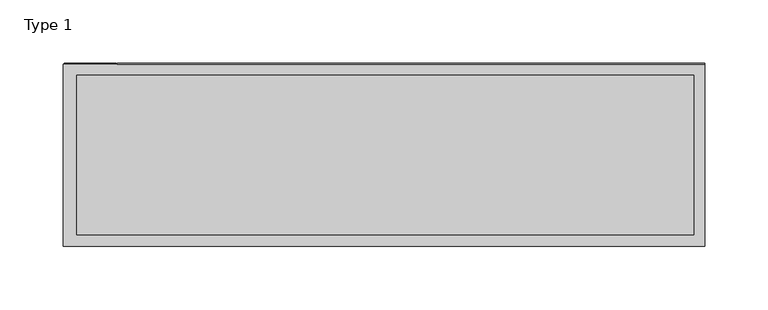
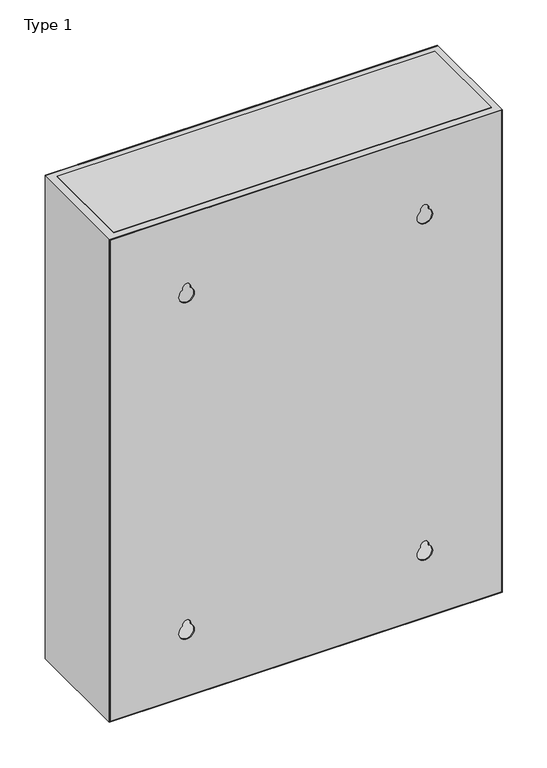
"""IFC4 building model written with IfcOpenShell, lengths in millimetres: proxy geometry, PDB-200 - 208V_OR_120V_Distribution_Panel_Wallmount_BIM_Model : Type 1."""

from ifc_helpers import new_model, si_unit, point, frame, frame_2d, origin, place, context, project, spatial, polyline, circle_curve, trimmed, segment, composite_curve, outline, extrude, source, transform, mapped, element, save


def type_1_70f3e7dd(model_context):
    return source(origin(), model_context, "Body", "SweptSolid", [
        extrude(outline(polyline([(1661.8105, -253.0524604), (1003.7201708, -253.0524604), (1003.7201708, 252.9513543), (1661.8105, 252.9513543), (1661.8105, -253.0524604)]), holes=[composite_curve([segment(trimmed(circle_curve(frame_2d((1562.5846885, 154.0)), 5.0), [point((1562.5846885, 149.0))], [point((1562.5846885, 159.0))], True, "CARTESIAN"), True, "CONTINUOUS"), segment(polyline([(1562.5846885, 159.0), (1560.4927236, 159.0)]), True, "CONTINUOUS"), segment(trimmed(circle_curve(frame_2d((1551.8324696, 154.0)), 10.0), [point((1560.4927236, 159.0))], [point((1560.4927236, 149.0))], True, "CARTESIAN"), True, "CONTINUOUS"), segment(polyline([(1560.4927236, 149.0), (1562.5846885, 149.0)]), True, "CONTINUOUS")], self_intersect=False), composite_curve([segment(trimmed(circle_curve(frame_2d((1562.5846885, -154.0)), 5.0), [point((1562.5846885, -159.0))], [point((1562.5846885, -149.0))], True, "CARTESIAN"), True, "CONTINUOUS"), segment(polyline([(1562.5846885, -149.0), (1560.4927236, -149.0)]), True, "CONTINUOUS"), segment(trimmed(circle_curve(frame_2d((1551.8324696, -154.0)), 10.0), [point((1560.4927236, -149.0))], [point((1560.4927236, -159.0))], True, "CARTESIAN"), True, "CONTINUOUS"), segment(polyline([(1560.4927236, -159.0), (1562.5846885, -159.0)]), True, "CONTINUOUS")], self_intersect=False), composite_curve([segment(trimmed(circle_curve(frame_2d((1102.5846885, 154.0)), 5.0), [point((1102.5846885, 149.0))], [point((1102.5846885, 159.0))], True, "CARTESIAN"), True, "CONTINUOUS"), segment(polyline([(1102.5846885, 159.0), (1100.4927236, 159.0)]), True, "CONTINUOUS"), segment(trimmed(circle_curve(frame_2d((1091.8324696, 154.0)), 10.0), [point((1100.4927236, 159.0))], [point((1100.4927236, 149.0))], True, "CARTESIAN"), True, "CONTINUOUS"), segment(polyline([(1100.4927236, 149.0), (1102.5846885, 149.0)]), True, "CONTINUOUS")], self_intersect=False), composite_curve([segment(trimmed(circle_curve(frame_2d((1102.5846885, -154.0)), 5.0), [point((1102.5846885, -159.0))], [point((1102.5846885, -149.0))], True, "CARTESIAN"), True, "CONTINUOUS"), segment(polyline([(1102.5846885, -149.0), (1100.4927236, -149.0)]), True, "CONTINUOUS"), segment(trimmed(circle_curve(frame_2d((1091.8324696, -154.0)), 10.0), [point((1100.4927236, -149.0))], [point((1100.4927236, -159.0))], True, "CARTESIAN"), True, "CONTINUOUS"), segment(polyline([(1100.4927236, -159.0), (1102.5846885, -159.0)]), True, "CONTINUOUS")], self_intersect=False)]), frame((0.0, 239.9849344, 0.0), z_axis=(0.0, 1.0, 0.0), x_axis=(0.0, 0.0, 1.0)), (0.0, 0.0, 1.0), 0.9625754),
        extrude(outline(polyline([(245.0524604, 375.3817659), (245.0524604, 249.1701356), (-243.0524604, 249.1701356), (-243.0524604, 375.3817659), (245.0524604, 375.3817659)])), frame((0.0, 0.0, 1662.5846885), z_axis=(0.0, 0.0, 1.0), x_axis=(1.0, 0.0, 0.0)), (0.0, 0.0, 1.0), 1.0190412),
        extrude(outline(polyline([(245.0524604, 375.3817659), (245.0524604, 249.1701356), (-243.0524604, 249.1701356), (-243.0524604, 375.3817659), (245.0524604, 375.3817659)])), frame((0.0, 0.0, 1001.2301619), z_axis=(0.0, 0.0, 1.0), x_axis=(1.0, 0.0, 0.0)), (0.0, 0.0, 1.0), 1.3545267),
        extrude(outline(polyline([(1662.5846885, -211.0613968), (1002.5846885, -211.0613968), (1002.5846885, 254.0), (1662.5846885, 254.0), (1662.5846885, -211.0613968)]), holes=[polyline([(1580.351105, -164.6519981), (1580.351105, 175.3480019), (1090.6943454, 175.3480019), (1090.6943454, -164.6519981), (1580.351105, -164.6519981)])]), frame((0.0, 384.0, 0.0), z_axis=(0.0, 1.0, 0.0), x_axis=(0.0, 0.0, 1.0)), (0.0, 0.0, 1.0), 0.9317574),
        extrude(outline(polyline([(174.8480019, 384.0), (-164.1519981, 384.0), (-164.1519981, 384.9317574), (174.8480019, 384.9317574), (174.8480019, 384.0)])), frame((0.0, 0.0, 1091.1943454), z_axis=(0.0, 0.0, 1.0), x_axis=(1.0, 0.0, 0.0)), (0.0, 0.0, 1.0), 488.6567596),
        extrude(outline(polyline([(1662.5846885, -254.0), (1002.5846885, -254.0), (1002.5846885, 254.0), (1662.5846885, 254.0), (1662.5846885, -254.0)]), holes=[polyline([(1661.8105, -253.0524604), (1661.8105, 252.9513543), (1003.7201708, 252.9513543), (1003.7201708, -253.0524604), (1661.8105, -253.0524604)])]), frame((0.0, 239.9849344, 0.0), z_axis=(0.0, 1.0, 0.0), x_axis=(0.0, 0.0, 1.0)), (0.0, 0.0, 1.0), 144.0150656),
        extrude(outline(polyline([(-212.0524604, 384.0), (-253.0524604, 384.0), (-253.0524604, 384.9317574), (-212.0524604, 384.9317574), (-212.0524604, 384.0)])), frame((0.0, 0.0, 1002.5846885), z_axis=(0.0, 0.0, 1.0), x_axis=(1.0, 0.0, 0.0)), (0.0, 0.0, 1.0), 660.0),
        extrude(outline(composite_curve([segment(trimmed(circle_curve(frame_2d((1355.1281656, 96.948195)), 10.0), [point((1355.1281656, 86.948195))], [point((1355.1281656, 106.948195))], False, "CARTESIAN"), True, "CONTINUOUS"), segment(trimmed(circle_curve(frame_2d((1355.1281656, 96.948195)), 10.0), [point((1355.1281656, 106.948195))], [point((1355.1281656, 86.948195))], False, "CARTESIAN"), True, "CONTINUOUS")], self_intersect=False), holes=[polyline([(1362.2099321, 95.0187584), (1362.2099321, 98.8038249), (1347.2099321, 98.8038249), (1347.2099321, 95.0187584), (1362.2099321, 95.0187584)])]), frame((0.0, 313.9721831, 0.0), z_axis=(0.0, 1.0, 0.0), x_axis=(0.0, 0.0, 1.0)), (0.0, 0.0, 1.0), 3.0401587),
        extrude(outline(polyline([(107.9231784, 384.9317574), (107.9231784, 313.9721831), (85.9231784, 313.9721831), (85.9231784, 384.9317574), (107.9231784, 384.9317574)])), frame((0.0, 0.0, 1290.0770102), z_axis=(0.0, 0.0, 1.0), x_axis=(1.0, 0.0, 0.0)), (0.0, 0.0, 1.0), 84.5076783),
    ])


if __name__ == "__main__":
    model = new_model("IFC4")
    model_context = context("Model", 3, world=origin())
    ifc_project = project(units=[si_unit("LENGTHUNIT", "METRE", prefix="MILLI")], contexts=[model_context])
    site = spatial("IfcSite", under=ifc_project)
    building = spatial("IfcBuilding", under=site)
    placement = place(None, origin())
    type_1_shape = type_1_70f3e7dd(model_context)
    element("IfcBuildingElementProxy", 1, Name="PDB-200 - 208V_OR_120V_Distribution_Panel_Wallmount_BIM_Model : Type 1", ObjectType="PDB-200 - 208V_OR_120V_Distribution_Panel_Wallmount_BIM_Model : Type 1", at=placement, inside=building, context=model_context, shape_type="MappedRepresentation", body=[
        mapped(type_1_shape, transform((0.0, 0.0, 0.0), x_axis=(1.0, 0.0, 0.0), y_axis=(0.0, 1.0, 0.0), z_axis=(0.0, 0.0, 1.0))),
    ])
    save(model, "model.ifc")
